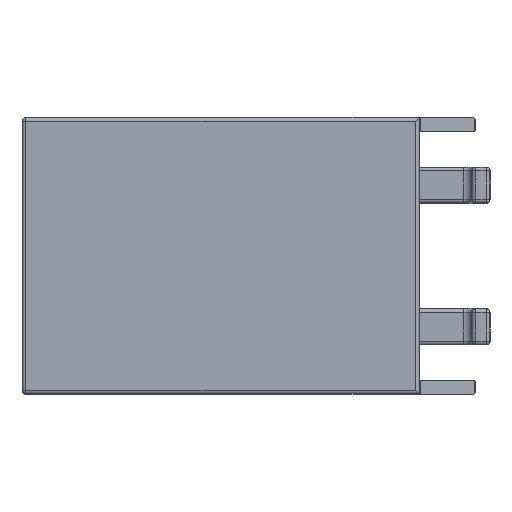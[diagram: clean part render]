
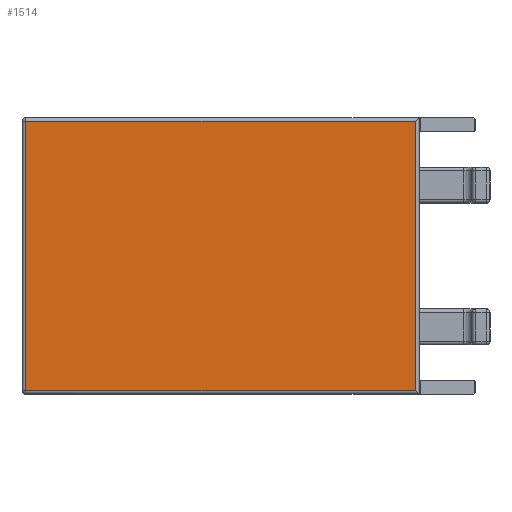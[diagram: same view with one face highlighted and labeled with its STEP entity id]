
A CAD part, left-side view. The second image highlights one B-rep face of the part: STEP entity #1514.
In plain terms, the highlighted planar face has unit normal (-1, 0, 0).
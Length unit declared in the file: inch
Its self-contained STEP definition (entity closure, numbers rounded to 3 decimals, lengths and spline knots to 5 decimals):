
#1391 = VERTEX_POINT ( 'NONE', #12756 ) ;
#1392 = VERTEX_POINT ( 'NONE', #12755 ) ;
#1512 = ORIENTED_EDGE ( 'NONE', *, *, #1535, .T. ) ;
#1514 = ADVANCED_FACE ( 'NONE', ( #12915 ), #12912, .T. ) ;
#1515 = ORIENTED_EDGE ( 'NONE', *, *, #1517, .T. ) ;
#1517 = EDGE_CURVE ( 'NONE', #1391, #1392, #12956, .T. ) ;
#1518 = EDGE_LOOP ( 'NONE', ( #1512, #1515, #1528, #9605 ) ) ;
#1519 = VERTEX_POINT ( 'NONE', #12952 ) ;
#1528 = ORIENTED_EDGE ( 'NONE', *, *, #1530, .T. ) ;
#1529 = VERTEX_POINT ( 'NONE', #12996 ) ;
#1530 = EDGE_CURVE ( 'NONE', #1392, #1529, #12994, .T. ) ;
#1535 = EDGE_CURVE ( 'NONE', #1519, #1391, #12990, .T. ) ;
#7246 = DIRECTION ( 'NONE',  ( 0., 1., 0. ) ) ;
#7247 = VECTOR ( 'NONE', #7246, 39.37008 ) ;
#7248 = CARTESIAN_POINT ( 'NONE',  ( -0.3002, 0., 0.0748 ) ) ;
#7249 = LINE ( 'NONE', #7248, #7247 ) ;
#9603 = EDGE_CURVE ( 'NONE', #1529, #1519, #7249, .T. ) ;
#9605 = ORIENTED_EDGE ( 'NONE', *, *, #9603, .T. ) ;
#12755 = CARTESIAN_POINT ( 'NONE',  ( -0.3002, 0.00197, -0.0748 ) ) ;
#12756 = CARTESIAN_POINT ( 'NONE',  ( -0.30017, 0.2185, -0.07478 ) ) ;
#12908 = DIRECTION ( 'NONE',  ( 0., -1., 0. ) ) ;
#12909 = DIRECTION ( 'NONE',  ( -1., 0., 0. ) ) ;
#12910 = CARTESIAN_POINT ( 'NONE',  ( -0.3002, 0., 0.07677 ) ) ;
#12911 = AXIS2_PLACEMENT_3D ( 'NONE', #12910, #12909, #12908 ) ;
#12912 = PLANE ( 'NONE',  #12911 ) ;
#12915 = FACE_OUTER_BOUND ( 'NONE', #1518, .T. ) ;
#12952 = CARTESIAN_POINT ( 'NONE',  ( -0.30017, 0.2185, 0.07478 ) ) ;
#12953 = DIRECTION ( 'NONE',  ( 0., -1., 0. ) ) ;
#12954 = VECTOR ( 'NONE', #12953, 39.37008 ) ;
#12955 = CARTESIAN_POINT ( 'NONE',  ( -0.3002, 0.00002, -0.0748 ) ) ;
#12956 = LINE ( 'NONE', #12955, #12954 ) ;
#12990 = LINE ( 'NONE', #13018, #13017 ) ;
#12991 = DIRECTION ( 'NONE',  ( 0., 0., 1. ) ) ;
#12992 = VECTOR ( 'NONE', #12991, 39.37008 ) ;
#12993 = CARTESIAN_POINT ( 'NONE',  ( -0.3002, 0.00197, 0.07677 ) ) ;
#12994 = LINE ( 'NONE', #12993, #12992 ) ;
#12996 = CARTESIAN_POINT ( 'NONE',  ( -0.3002, 0.00197, 0.0748 ) ) ;
#13016 = DIRECTION ( 'NONE',  ( 0., 0., -1. ) ) ;
#13017 = VECTOR ( 'NONE', #13016, 39.37008 ) ;
#13018 = CARTESIAN_POINT ( 'NONE',  ( -0.30017, 0.2185, -0.07674 ) ) ;
